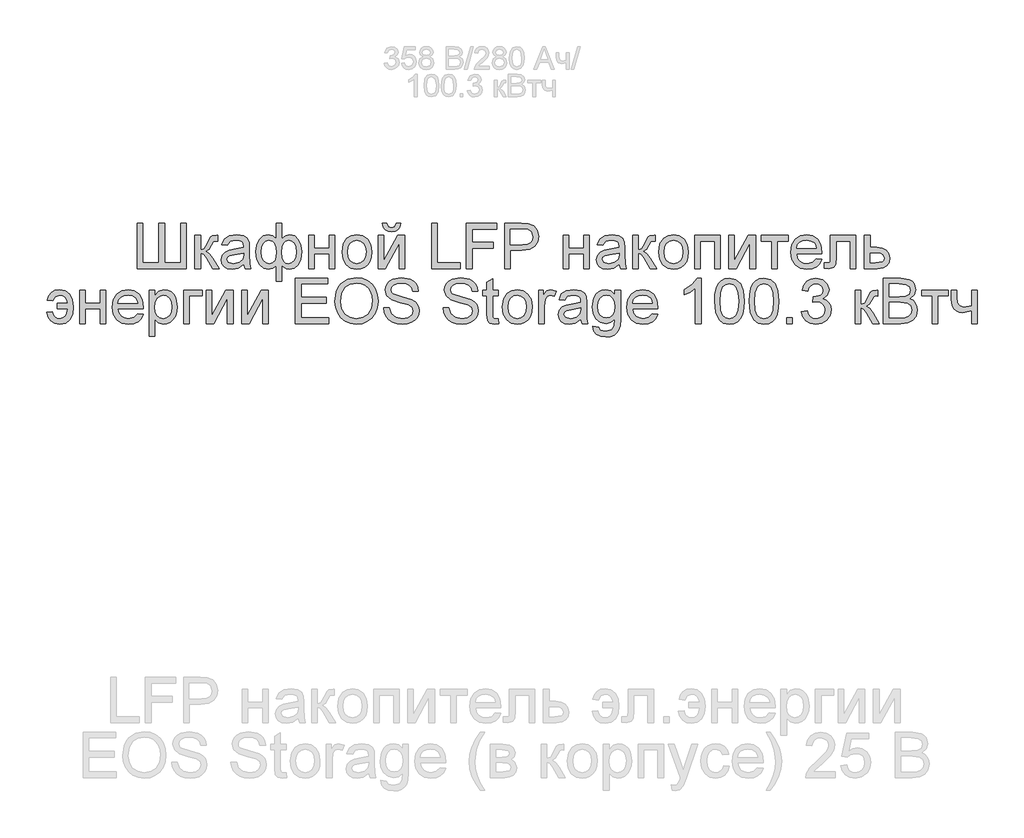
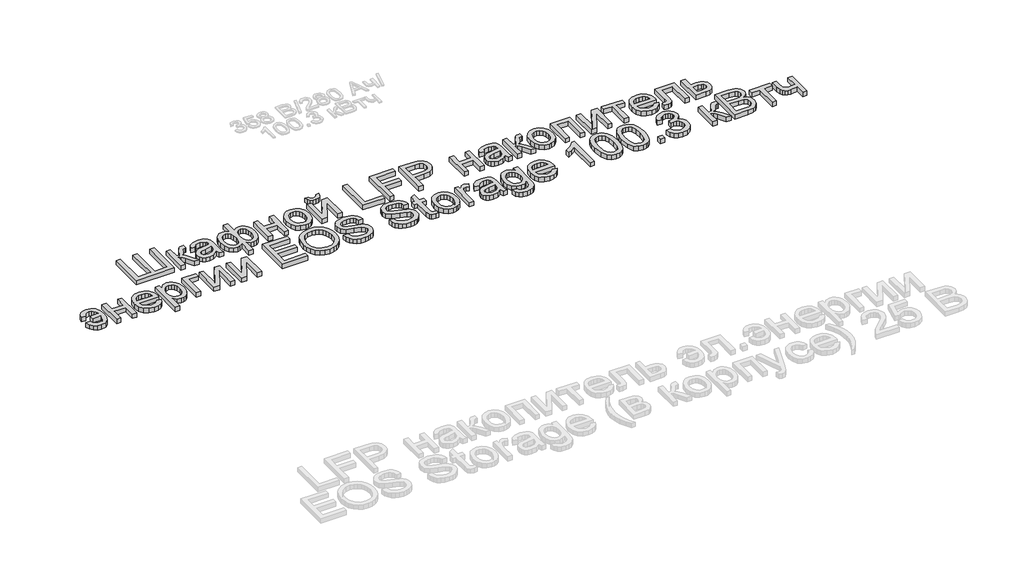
# One storey, part 21 of 26: 1 proxy.
"""IFC4 building model written with IfcOpenShell, lengths in millimetres."""

from ifc_helpers import new_model, si_unit, origin, origin_with_axes, place, context, project, spatial, polyline, outline, extrude, element, save

model = new_model("IFC4")

# Units and contexts
model_context = context("Model", 3, world=origin())
ifc_project = project(units=[si_unit("LENGTHUNIT", "METRE", prefix="MILLI")], contexts=[model_context])

# Site, building, storey
site = spatial("IfcSite", under=ifc_project)
building = spatial("IfcBuilding", under=site)
storey = spatial("IfcBuildingStorey", under=building, Name="Этаж 01", Elevation=0.0)

# Proxy
placement = place(None, origin())
element("IfcBuildingElementProxy", 1, Name="150 мм Arial", ObjectType="150 мм Arial", at=placement, inside=storey, context=model_context, shape_type="SweptSolid", body=[
    extrude(outline(polyline([(14334.9652813, -12348.2873663), (14353.8008394, -12348.2873663), (14353.8008394, -12480.1362734), (14407.9530691, -12480.1362734), (14407.9530691, -12348.2873663), (14426.7886273, -12348.2873663), (14426.7886273, -12480.1362734), (14480.9408569, -12480.1362734), (14480.9408569, -12348.2873663), (14499.7764151, -12348.2873663), (14499.7764151, -12498.9718316), (14334.9652813, -12498.9718316), (14334.9652813, -12348.2873663)])), origin_with_axes(), (0.0, 0.0, 1.0), 20.0),
    extrude(outline(polyline([(14528.0297523, -12388.3129274), (14546.8653105, -12388.3129274), (14546.8653105, -12435.4018228), (14559.4836629, -12432.0173084), (14569.821147, -12412.2988335), (14578.4111916, -12395.2842912), (14585.9895607, -12389.7476672), (14599.7667414, -12388.3129274), (14603.3719849, -12388.3129274), (14603.3719849, -12407.2588502), (14598.2952134, -12407.1484856), (14589.0981635, -12409.1350483), (14582.6234404, -12421.5326716), (14575.0266772, -12434.9419703), (14564.3764935, -12441.5086639), (14576.2590819, -12448.8387127), (14587.9209411, -12464.2805594), (14608.0808745, -12498.9718316), (14586.6701424, -12498.9718316), (14566.9148792, -12465.0163234), (14556.9820654, -12450.6505315), (14546.8653105, -12447.1740466), (14546.8653105, -12498.9718316), (14528.0297523, -12498.9718316), (14528.0297523, -12388.3129274)])), origin_with_axes(), (0.0, 0.0, 1.0), 20.0),
    extrude(outline(polyline([(14690.4864414, -12484.845163), (14672.2211003, -12497.6106682), (14652.0427729, -12501.3262763), (14636.302022, -12499.0913932), (14624.6907466, -12492.3867439), (14617.5308432, -12482.2056096), (14615.1442088, -12469.541272), (14618.7494523, -12454.6420511), (14628.2224137, -12443.8263205), (14641.4109832, -12437.645903), (14657.7081556, -12434.8132116), (14690.3760768, -12428.3384885), (14690.4864414, -12424.1446337), (14689.1896574, -12415.7385302), (14685.2993053, -12410.2386943), (14676.5988961, -12406.1552042), (14664.4771843, -12404.7940408), (14645.420897, -12408.4176785), (14636.3342117, -12421.2751542), (14617.4986536, -12418.9207094), (14625.6472398, -12400.5266097), (14642.0547767, -12389.7476672), (14666.9052055, -12385.9584826), (14689.7322833, -12389.3062088), (14702.6265472, -12397.7123124), (14708.4022946, -12410.4962117), (14709.3219996, -12426.9773251), (14709.3219996, -12450.4114082), (14710.2784927, -12483.1345117), (14714.0308891, -12498.9718316), (14695.1953309, -12498.9718316), (14690.4864414, -12484.845163)]), holes=[polyline([(14690.4864414, -12447.1740466), (14660.0993886, -12452.949794), (14643.8941867, -12456.0032145), (14636.5549409, -12460.9696215), (14633.9797669, -12468.2168968), (14639.5899674, -12478.407228), (14656.0526867, -12482.4907182), (14675.108974, -12477.9841637), (14687.3962326, -12467.0764626), (14690.3760768, -12452.5083356), (14690.4864414, -12447.1740466)])]), origin_with_axes(), (0.0, 0.0, 1.0), 20.0),
    extrude(outline(polyline([(14798.7909008, -12348.2873663), (14817.6264589, -12348.2873663), (14817.6264589, -12398.9447171), (14829.6010179, -12389.1774501), (14843.635716, -12385.9584826), (14860.1214279, -12390.0511698), (14872.7903641, -12402.3292314), (14880.8607754, -12420.8153017), (14883.5509125, -12443.5320149), (14880.6538418, -12466.9431054), (14871.9626296, -12485.3785918), (14858.9671981, -12497.3393552), (14843.1574694, -12501.3262763), (14831.642763, -12499.4868664), (14817.6264589, -12489.4436879), (14817.6264589, -12541.3518374), (14798.7909008, -12541.3518374), (14798.7909008, -12489.4436879), (14786.7611595, -12498.3464322), (14772.5241263, -12501.3262763), (14756.7419887, -12497.5186977), (14743.0935667, -12486.0959617), (14733.6573935, -12467.5823003), (14730.5120025, -12442.5019453), (14733.3584894, -12420.4198285), (14741.8979502, -12402.2188668), (14755.2474681, -12390.0235787), (14772.5241263, -12385.9584826), (14787.1106474, -12389.1774501), (14798.7909008, -12398.9447171), (14798.7909008, -12348.2873663)]), holes=[polyline([(14817.5160943, -12443.9734733), (14819.0841913, -12463.0435562), (14823.7884824, -12474.6364376), (14830.8564152, -12480.527148), (14839.5154376, -12482.4907182), (14849.1953326, -12480.0764926), (14857.3393203, -12472.8338158), (14862.8713458, -12460.5051704), (14864.7153543, -12442.8330391), (14863.0139001, -12426.0760142), (14857.9095374, -12414.2118199), (14850.1380303, -12407.1484856), (14840.4351426, -12404.7940408), (14830.4425479, -12407.2450546), (14823.2734476, -12414.598096), (14818.9554326, -12426.8439679), (14817.5160943, -12443.9734733)]), polyline([(14749.3475606, -12442.0972751), (14751.2329559, -12460.5741483), (14756.8891415, -12473.0361509), (14765.3412304, -12480.1270764), (14775.6143351, -12482.4907182), (14785.836856, -12480.1408719), (14793.107124, -12473.0913332), (14797.45273, -12461.342102), (14798.9012654, -12444.8931783), (14797.3791536, -12427.3498056), (14792.8128184, -12414.8188252), (14785.1746684, -12407.3002369), (14774.4371127, -12404.7940408), (14764.357146, -12407.2404561), (14756.3373185, -12414.5797019), (14751.0950001, -12426.3519257), (14749.3475606, -12442.0972751)])]), origin_with_axes(), (0.0, 0.0, 1.0), 20.0),
    extrude(outline(polyline([(14907.0953602, -12388.3129274), (14925.9309183, -12388.3129274), (14925.9309183, -12430.6929333), (14975.3742585, -12430.6929333), (14975.3742585, -12388.3129274), (14994.2098166, -12388.3129274), (14994.2098166, -12498.9718316), (14975.3742585, -12498.9718316), (14975.3742585, -12449.5284914), (14925.9309183, -12449.5284914), (14925.9309183, -12498.9718316), (14907.0953602, -12498.9718316), (14907.0953602, -12388.3129274)])), origin_with_axes(), (0.0, 0.0, 1.0), 20.0),
    extrude(outline(polyline([(15017.7542643, -12443.6423795), (15021.8285574, -12416.9617378), (15034.0514367, -12398.2089531), (15049.1529926, -12389.0211003), (15067.2343927, -12385.9584826), (15087.0218455, -12389.6878864), (15102.8269757, -12400.8760976), (15113.1874524, -12418.6401994), (15116.6409446, -12442.0972751), (15115.1142343, -12461.1259713), (15110.5341035, -12475.6113249), (15103.0339093, -12486.4592452), (15092.747009, -12494.5756417), (15080.5287283, -12499.6386177), (15067.2343927, -12501.3262763), (15047.2078165, -12497.6106682), (15031.4210804, -12486.4638437), (15021.1709683, -12468.3272614), (15017.7542643, -12443.6423795)]), holes=[polyline([(15036.5898225, -12443.6055913), (15038.7695233, -12460.6523232), (15045.3086257, -12472.7970276), (15055.1494691, -12480.0672955), (15067.2343927, -12482.4907182), (15079.2641339, -12480.0535), (15089.0865832, -12472.7418453), (15095.6256856, -12460.4361926), (15097.8053865, -12443.0169801), (15095.6118901, -12426.4668888), (15089.0314009, -12414.4877314), (15079.195156, -12407.2174634), (15067.2343927, -12404.7940408), (15055.1494691, -12407.2082664), (15045.3086257, -12414.4509432), (15038.7695233, -12426.5680564), (15036.5898225, -12443.6055913)])]), origin_with_axes(), (0.0, 0.0, 1.0), 20.0),
    extrude(outline(polyline([(15137.8309475, -12388.3129274), (15156.6665057, -12388.3129274), (15156.6665057, -12472.7050571), (15202.9460607, -12388.3129274), (15227.2998488, -12388.3129274), (15227.2998488, -12498.9718316), (15208.4642906, -12498.9718316), (15208.4642906, -12415.0947367), (15162.4790412, -12498.9718316), (15137.8309475, -12498.9718316), (15137.8309475, -12388.3129274)])), origin_with_axes(), (0.0, 0.0, 1.0), 20.0),
    extrude(outline(polyline([(15199.0465115, -12348.2873663), (15213.1731801, -12348.2873663), (15210.1335552, -12360.3492973), (15204.0313126, -12369.238246), (15195.1423639, -12374.7150892), (15183.7426205, -12376.5407036), (15171.3725884, -12374.7288847), (15161.7800654, -12369.2934283), (15155.2225689, -12360.4182751), (15151.9576162, -12348.2873663), (15166.0842848, -12348.2873663), (15171.3817855, -12358.9007619), (15182.0503634, -12362.414035), (15193.7490108, -12359.0111265), (15199.0465115, -12348.2873663)])), origin_with_axes(), (0.0, 0.0, 1.0), 20.0),
    extrude(outline(polyline([(15316.76875, -12498.9718316), (15316.76875, -12348.2873663), (15335.6043081, -12348.2873663), (15335.6043081, -12480.1362734), (15410.9465408, -12480.1362734), (15410.9465408, -12498.9718316), (15316.76875, -12498.9718316)])), origin_with_axes(), (0.0, 0.0, 1.0), 20.0),
    extrude(outline(polyline([(15432.1365437, -12498.9718316), (15432.1365437, -12348.2873663), (15533.3776687, -12348.2873663), (15533.3776687, -12367.1229245), (15450.9721018, -12367.1229245), (15450.9721018, -12411.8573751), (15521.6054449, -12411.8573751), (15521.6054449, -12430.6929333), (15450.9721018, -12430.6929333), (15450.9721018, -12498.9718316), (15432.1365437, -12498.9718316)])), origin_with_axes(), (0.0, 0.0, 1.0), 20.0),
    extrude(outline(polyline([(15559.2765612, -12498.9718316), (15559.2765612, -12348.2873663), (15615.1210481, -12348.2873663), (15637.6354262, -12349.7221061), (15655.9375554, -12356.7670463), (15667.8017498, -12371.3351733), (15672.2899101, -12391.8813828), (15669.2594822, -12409.6408861), (15660.1681984, -12424.4389393), (15643.1674517, -12434.4269355), (15616.4086351, -12437.7562676), (15578.1121194, -12437.7562676), (15578.1121194, -12498.9718316), (15559.2765612, -12498.9718316)]), holes=[polyline([(15578.1121194, -12418.9207094), (15617.512281, -12418.9207094), (15634.2141236, -12417.191664), (15645.2505835, -12412.0045279), (15651.4034099, -12403.6811978), (15653.454352, -12392.5435704), (15648.6167037, -12376.9453738), (15635.9063808, -12368.4105115), (15617.0708227, -12367.1229245), (15578.1121194, -12367.1229245), (15578.1121194, -12418.9207094)])]), origin_with_axes(), (0.0, 0.0, 1.0), 20.0),
    extrude(outline(polyline([(15754.695477, -12388.3129274), (15773.5310352, -12388.3129274), (15773.5310352, -12430.6929333), (15822.9743754, -12430.6929333), (15822.9743754, -12388.3129274), (15841.8099335, -12388.3129274), (15841.8099335, -12498.9718316), (15822.9743754, -12498.9718316), (15822.9743754, -12449.5284914), (15773.5310352, -12449.5284914), (15773.5310352, -12498.9718316), (15754.695477, -12498.9718316), (15754.695477, -12388.3129274)])), origin_with_axes(), (0.0, 0.0, 1.0), 20.0),
    extrude(outline(polyline([(15940.6966138, -12484.845163), (15922.4312727, -12497.6106682), (15902.2529453, -12501.3262763), (15886.5121944, -12499.0913932), (15874.900919, -12492.3867439), (15867.7410156, -12482.2056096), (15865.3543812, -12469.541272), (15868.9596248, -12454.6420511), (15878.4325861, -12443.8263205), (15891.6211557, -12437.645903), (15907.918328, -12434.8132116), (15940.5862492, -12428.3384885), (15940.6966138, -12424.1446337), (15939.3998298, -12415.7385302), (15935.5094777, -12410.2386943), (15926.8090685, -12406.1552042), (15914.6873568, -12404.7940408), (15895.6310694, -12408.4176785), (15886.5443841, -12421.2751542), (15867.708826, -12418.9207094), (15875.8574122, -12400.5266097), (15892.2649491, -12389.7476672), (15917.1153779, -12385.9584826), (15939.9424557, -12389.3062088), (15952.8367197, -12397.7123124), (15958.612467, -12410.4962117), (15959.532172, -12426.9773251), (15959.532172, -12450.4114082), (15960.4886652, -12483.1345117), (15964.2410615, -12498.9718316), (15945.4055033, -12498.9718316), (15940.6966138, -12484.845163)]), holes=[polyline([(15940.6966138, -12447.1740466), (15910.309561, -12452.949794), (15894.1043591, -12456.0032145), (15886.7651133, -12460.9696215), (15884.1899394, -12468.2168968), (15889.8001398, -12478.407228), (15906.2628591, -12482.4907182), (15925.3191464, -12477.9841637), (15937.6064051, -12467.0764626), (15940.5862492, -12452.5083356), (15940.6966138, -12447.1740466)])]), origin_with_axes(), (0.0, 0.0, 1.0), 20.0),
    extrude(outline(polyline([(15985.4310644, -12388.3129274), (16004.2666226, -12388.3129274), (16004.2666226, -12435.4018228), (16016.884975, -12432.0173084), (16027.2224591, -12412.2988335), (16035.8125037, -12395.2842912), (16043.3908728, -12389.7476672), (16057.1680535, -12388.3129274), (16060.773297, -12388.3129274), (16060.773297, -12407.2588502), (16055.6965255, -12407.1484856), (16046.4994756, -12409.1350483), (16040.0247525, -12421.5326716), (16032.4279893, -12434.9419703), (16021.7778055, -12441.5086639), (16033.660394, -12448.8387127), (16045.3222532, -12464.2805594), (16065.4821866, -12498.9718316), (16044.0714545, -12498.9718316), (16024.3161913, -12465.0163234), (16014.3833774, -12450.6505315), (16004.2666226, -12447.1740466), (16004.2666226, -12498.9718316), (15985.4310644, -12498.9718316), (15985.4310644, -12388.3129274)])), origin_with_axes(), (0.0, 0.0, 1.0), 20.0),
    extrude(outline(polyline([(16072.5455209, -12443.6423795), (16076.619814, -12416.9617378), (16088.8426933, -12398.2089531), (16103.9442492, -12389.0211003), (16122.0256492, -12385.9584826), (16141.813102, -12389.6878864), (16157.6182323, -12400.8760976), (16167.978709, -12418.6401994), (16171.4322012, -12442.0972751), (16169.9054909, -12461.1259713), (16165.3253601, -12475.6113249), (16157.8251659, -12486.4592452), (16147.5382656, -12494.5756417), (16135.3199848, -12499.6386177), (16122.0256492, -12501.3262763), (16101.9990731, -12497.6106682), (16086.212337, -12486.4638437), (16075.9622249, -12468.3272614), (16072.5455209, -12443.6423795)]), holes=[polyline([(16091.381079, -12443.6055913), (16093.5607799, -12460.6523232), (16100.0998823, -12472.7970276), (16109.9407257, -12480.0672955), (16122.0256492, -12482.4907182), (16134.0553905, -12480.0535), (16143.8778397, -12472.7418453), (16150.4169422, -12460.4361926), (16152.596643, -12443.0169801), (16150.4031466, -12426.4668888), (16143.8226574, -12414.4877314), (16133.9864126, -12407.2174634), (16122.0256492, -12404.7940408), (16109.9407257, -12407.2082664), (16100.0998823, -12414.4509432), (16093.5607799, -12426.5680564), (16091.381079, -12443.6055913)])]), origin_with_axes(), (0.0, 0.0, 1.0), 20.0),
    extrude(outline(polyline([(16192.6222041, -12388.3129274), (16277.3822158, -12388.3129274), (16277.3822158, -12498.9718316), (16258.5466576, -12498.9718316), (16258.5466576, -12407.1484856), (16211.4577623, -12407.1484856), (16211.4577623, -12498.9718316), (16192.6222041, -12498.9718316), (16192.6222041, -12388.3129274)])), origin_with_axes(), (0.0, 0.0, 1.0), 20.0),
    extrude(outline(polyline([(16305.635553, -12388.3129274), (16324.4711112, -12388.3129274), (16324.4711112, -12472.7050571), (16370.7506662, -12388.3129274), (16395.1044543, -12388.3129274), (16395.1044543, -12498.9718316), (16376.2688961, -12498.9718316), (16376.2688961, -12415.0947367), (16330.2836467, -12498.9718316), (16305.635553, -12498.9718316), (16305.635553, -12388.3129274)])), origin_with_axes(), (0.0, 0.0, 1.0), 20.0),
    extrude(outline(polyline([(16413.9400124, -12388.3129274), (16503.4089136, -12388.3129274), (16503.4089136, -12407.1484856), (16468.0922421, -12407.1484856), (16468.0922421, -12498.9718316), (16449.2566839, -12498.9718316), (16449.2566839, -12407.1484856), (16413.9400124, -12407.1484856), (16413.9400124, -12388.3129274)])), origin_with_axes(), (0.0, 0.0, 1.0), 20.0),
    extrude(outline(polyline([(16597.3659752, -12466.0096048), (16615.8336514, -12468.3640496), (16609.1795858, -12482.279186), (16598.5615917, -12492.6810494), (16584.2187924, -12499.1649696), (16566.3903112, -12501.3262763), (16544.2898003, -12497.5968726), (16527.2844551, -12486.4086614), (16516.4411333, -12468.4882097), (16512.8266927, -12444.5620845), (16516.4779215, -12419.8312174), (16527.4316079, -12401.33595), (16544.2070269, -12389.8028495), (16565.3234534, -12385.9584826), (16585.7822909, -12389.7936524), (16602.130047, -12401.2991618), (16612.8492087, -12419.757641), (16616.4222626, -12444.4517199), (16616.311898, -12449.5284914), (16531.6622509, -12449.5284914), (16534.922605, -12463.6275689), (16542.4963756, -12473.9926441), (16553.4270694, -12480.3661997), (16566.7581932, -12482.4907182), (16585.2258694, -12478.5543808), (16597.3659752, -12466.0096048)]), holes=[polyline([(16531.6622509, -12430.6929333), (16597.5867044, -12430.6929333), (16595.0391216, -12420.7417253), (16590.0451235, -12413.6232087), (16579.0638459, -12407.0013328), (16565.249877, -12404.7940408), (16552.5533497, -12406.5552759), (16542.0549172, -12411.838981), (16534.7570581, -12420.0749392), (16531.6622509, -12430.6929333)])]), origin_with_axes(), (0.0, 0.0, 1.0), 20.0),
    extrude(outline(polyline([(16644.6755998, -12388.3129274), (16729.4356115, -12388.3129274), (16729.4356115, -12498.861467), (16710.6000533, -12498.861467), (16710.6000533, -12407.1484856), (16663.5111579, -12407.1484856), (16663.5111579, -12459.9395519), (16662.241965, -12484.29334), (16655.2706012, -12494.5756417), (16638.7894879, -12498.9718316), (16623.4855969, -12498.0153384), (16623.4855969, -12480.1362734), (16631.9100945, -12480.1362734), (16640.4265627, -12478.9774451), (16643.8294712, -12475.2986252), (16644.6755998, -12458.8726941), (16644.6755998, -12388.3129274)])), origin_with_axes(), (0.0, 0.0, 1.0), 20.0),
    extrude(outline(polyline([(16757.6889487, -12388.3129274), (16776.5245069, -12388.3129274), (16776.5245069, -12428.3384885), (16798.2295446, -12428.3384885), (16817.0467086, -12430.6975318), (16830.9710421, -12437.7746617), (16839.5794808, -12448.999661), (16842.4489604, -12463.8023128), (16840.0071436, -12477.2805894), (16832.6816934, -12488.6527416), (16819.9851661, -12496.3920591), (16801.4301179, -12498.9718316), (16757.6889487, -12498.9718316), (16757.6889487, -12388.3129274)]), holes=[polyline([(16776.5245069, -12480.1362734), (16794.1092662, -12480.1362734), (16816.8259794, -12476.181542), (16821.9165465, -12471.118566), (16823.6134022, -12463.839101), (16818.591813, -12452.2508182), (16810.5214017, -12448.4432395), (16796.3533464, -12447.1740466), (16776.5245069, -12447.1740466), (16776.5245069, -12480.1362734)])]), origin_with_axes(), (0.0, 0.0, 1.0), 20.0),
    extrude(outline(polyline([(14068.9130224, -12613.65516), (14104.2296939, -12613.65516), (14101.3280247, -12603.2211069), (14095.7132257, -12594.9483606), (14087.753179, -12589.5542908), (14077.8157666, -12587.7562676), (14062.5486638, -12592.4651571), (14054.7863537, -12606.5918257), (14035.9507956, -12604.237381), (14040.3423869, -12590.0969168), (14048.8818477, -12578.798341), (14061.1369167, -12571.3901173), (14076.6753324, -12568.9207094), (14095.9017652, -12572.7650763), (14110.6124465, -12584.2981768), (14119.9520507, -12602.5635179), (14123.065252, -12626.6046063), (14120.4946766, -12650.53533), (14111.6057279, -12669.3524941), (14097.0789876, -12681.2166884), (14077.5950374, -12684.2885031), (14060.8931949, -12681.5339867), (14047.7230194, -12673.2704373), (14038.4891813, -12660.5095306), (14033.5963508, -12644.262942), (14052.431909, -12641.9084973), (14055.4071546, -12652.2091931), (14060.543707, -12659.566833), (14067.841566, -12663.981417), (14077.3007318, -12665.4529449), (14087.9417186, -12663.3928058), (14095.952349, -12657.2123883), (14101.3694114, -12646.9116924), (14104.2296939, -12632.4907182), (14068.9130224, -12632.4907182), (14068.9130224, -12613.65516)])), origin_with_axes(), (0.0, 0.0, 1.0), 20.0),
    extrude(outline(polyline([(14144.255255, -12571.2751542), (14163.0908131, -12571.2751542), (14163.0908131, -12613.65516), (14212.5341533, -12613.65516), (14212.5341533, -12571.2751542), (14231.3697114, -12571.2751542), (14231.3697114, -12681.9340583), (14212.5341533, -12681.9340583), (14212.5341533, -12632.4907182), (14163.0908131, -12632.4907182), (14163.0908131, -12681.9340583), (14144.255255, -12681.9340583), (14144.255255, -12571.2751542)])), origin_with_axes(), (0.0, 0.0, 1.0), 20.0),
    extrude(outline(polyline([(14337.0989968, -12648.9718316), (14355.566673, -12651.3262763), (14348.9126074, -12665.2414128), (14338.2946133, -12675.6432762), (14323.951814, -12682.1271964), (14306.1233328, -12684.2885031), (14284.022822, -12680.5590994), (14267.0174768, -12669.3708882), (14256.1741549, -12651.4504365), (14252.5597143, -12627.5243112), (14256.2109431, -12602.7934441), (14267.1646296, -12584.2981768), (14283.9400485, -12572.7650763), (14305.0564751, -12568.9207094), (14325.5153125, -12572.7558792), (14341.8630687, -12584.2613886), (14352.5822303, -12602.7198677), (14356.1552842, -12627.4139466), (14356.0449196, -12632.4907182), (14271.3952725, -12632.4907182), (14274.6556267, -12646.5897956), (14282.2293973, -12656.9548709), (14293.160091, -12663.3284264), (14306.4912148, -12665.4529449), (14324.958891, -12661.5166076), (14337.0989968, -12648.9718316)]), holes=[polyline([(14271.3952725, -12613.65516), (14337.319726, -12613.65516), (14334.7721432, -12603.7039521), (14329.7781451, -12596.5854355), (14318.7968676, -12589.9635595), (14304.9828987, -12587.7562676), (14292.2863713, -12589.5175026), (14281.7879389, -12594.8012078), (14274.4900798, -12603.0371659), (14271.3952725, -12613.65516)])]), origin_with_axes(), (0.0, 0.0, 1.0), 20.0),
    extrude(outline(polyline([(14374.9908423, -12724.3140642), (14374.9908423, -12571.2751542), (14393.8264005, -12571.2751542), (14393.8264005, -12589.7428303), (14406.8494231, -12574.1262396), (14424.4341825, -12568.9207094), (14437.1720966, -12570.7417253), (14448.309724, -12576.2047729), (14457.3780152, -12584.9787585), (14463.9079206, -12596.7325883), (14469.1686331, -12625.7584777), (14467.6833095, -12641.8671105), (14463.2273389, -12656.2742892), (14455.9432754, -12668.2488481), (14445.9736733, -12677.0596219), (14434.3623978, -12682.4812828), (14422.1533141, -12684.2885031), (14405.7641712, -12679.4508549), (14393.8264005, -12667.2187785), (14393.8264005, -12724.3140642), (14374.9908423, -12724.3140642)]), holes=[polyline([(14393.8264005, -12627.487523), (14395.863547, -12644.3733066), (14401.9749867, -12656.1823187), (14410.9926941, -12663.1352884), (14421.7486439, -12665.4529449), (14432.6793377, -12663.0525149), (14441.9269714, -12655.8512249), (14448.2315491, -12643.6099515), (14450.3330749, -12626.0895715), (14448.2821328, -12609.2957584), (14442.1293065, -12597.3211994), (14433.1253946, -12590.1475005), (14422.5211961, -12587.7562676), (14411.8756109, -12590.2992519), (14402.5268097, -12597.9282047), (14396.0015028, -12610.4040029), (14393.8264005, -12627.487523)])]), origin_with_axes(), (0.0, 0.0, 1.0), 20.0),
    extrude(outline(polyline([(14490.358636, -12571.2751542), (14551.5742, -12571.2751542), (14551.5742, -12590.1107123), (14509.1941942, -12590.1107123), (14509.1941942, -12681.9340583), (14490.358636, -12681.9340583), (14490.358636, -12571.2751542)])), origin_with_axes(), (0.0, 0.0, 1.0), 20.0),
    extrude(outline(polyline([(14565.7008686, -12571.2751542), (14584.5364268, -12571.2751542), (14584.5364268, -12655.6672839), (14630.8159818, -12571.2751542), (14655.1697699, -12571.2751542), (14655.1697699, -12681.9340583), (14636.3342117, -12681.9340583), (14636.3342117, -12598.0569634), (14590.3489623, -12681.9340583), (14565.7008686, -12681.9340583), (14565.7008686, -12571.2751542)])), origin_with_axes(), (0.0, 0.0, 1.0), 20.0),
    extrude(outline(polyline([(14683.4231071, -12571.2751542), (14702.2586652, -12571.2751542), (14702.2586652, -12655.6672839), (14748.5382202, -12571.2751542), (14772.8920083, -12571.2751542), (14772.8920083, -12681.9340583), (14754.0564502, -12681.9340583), (14754.0564502, -12598.0569634), (14708.0712008, -12681.9340583), (14683.4231071, -12681.9340583), (14683.4231071, -12571.2751542)])), origin_with_axes(), (0.0, 0.0, 1.0), 20.0),
    extrude(outline(polyline([(14862.3609095, -12681.9340583), (14862.3609095, -12531.2495931), (14970.6653689, -12531.2495931), (14970.6653689, -12550.0851513), (14881.1964677, -12550.0851513), (14881.1964677, -12594.8196019), (14965.9564794, -12594.8196019), (14965.9564794, -12613.65516), (14881.1964677, -12613.65516), (14881.1964677, -12663.0985002), (14973.0198137, -12663.0985002), (14973.0198137, -12681.9340583), (14862.3609095, -12681.9340583)])), origin_with_axes(), (0.0, 0.0, 1.0), 20.0),
    extrude(outline(polyline([(14994.2098166, -12608.5783885), (14999.2314059, -12575.2574768), (15005.5083924, -12561.6389452), (15014.2961736, -12550.0483631), (15037.2979953, -12534.183452), (15066.1307467, -12528.8951483), (15085.8952069, -12531.3783518), (15103.617922, -12538.8279622), (15118.3332018, -12550.7197477), (15129.0753561, -12566.5294764), (15135.6420497, -12585.4937933), (15137.8309475, -12606.8493431), (15135.5270865, -12628.4900015), (15128.6155036, -12647.7210328), (15117.4778762, -12663.5583527), (15102.4958819, -12675.0178768), (15084.9249181, -12681.9708465), (15066.0203821, -12684.2885031), (15045.9524192, -12681.7271247), (15028.1285366, -12674.0429895), (15013.450045, -12661.9304748), (15002.8182553, -12646.0839579), (14996.3619263, -12627.8508065), (14994.2098166, -12608.5783885)]), holes=[polyline([(15013.0453748, -12608.7623295), (15016.8115667, -12632.3343683), (15028.1101425, -12650.2962067), (15045.0924951, -12661.6637604), (15065.9100175, -12665.4529449), (15087.0310425, -12661.6269722), (15104.0409863, -12650.1490539), (15115.2567886, -12631.6353925), (15118.9953894, -12606.7021903), (15117.3951027, -12590.0279389), (15112.5942427, -12575.6161617), (15104.7169694, -12563.8301423), (15093.8874432, -12555.0331641), (15080.8230339, -12549.5563209), (15066.2411113, -12547.7307065), (15045.9800104, -12551.2485781), (15028.753936, -12561.8021928), (15016.9725151, -12580.5779701), (15013.0453748, -12608.7623295)])]), origin_with_axes(), (0.0, 0.0, 1.0), 20.0),
    extrude(outline(polyline([(15156.6665057, -12630.1362734), (15175.5020638, -12630.1362734), (15181.5721168, -12648.9902257), (15196.3977612, -12660.9096023), (15218.9857157, -12665.4529449), (15238.6674024, -12662.0132483), (15251.3777253, -12652.558681), (15255.553186, -12639.9219345), (15252.426189, -12628.1681047), (15239.6238956, -12619.6148484), (15212.1982929, -12612.4227553), (15182.6757627, -12603.133735), (15166.6545019, -12589.117431), (15161.3753952, -12570.3922374), (15163.0078716, -12559.3603761), (15167.9053006, -12549.0734758), (15175.9389237, -12540.3546725), (15186.9799821, -12534.0271022), (15214.9022255, -12528.8951483), (15244.7006671, -12534.2662255), (15256.1234031, -12540.8972984), (15264.5662949, -12550.0483631), (15269.9097809, -12561.1492023), (15272.0342994, -12573.629599), (15253.1987412, -12573.629599), (15249.7406505, -12562.390804), (15242.5301634, -12554.279006), (15231.2637773, -12549.3677814), (15215.6379895, -12547.7307065), (15199.6443198, -12549.3493873), (15188.6722393, -12554.2054296), (15182.3262749, -12561.3515374), (15180.2109534, -12569.8404144), (15181.7100725, -12577.0784927), (15186.2074299, -12582.9002252), (15216.9623647, -12593.4216503), (15250.2924735, -12602.8762176), (15261.0300292, -12609.7096256), (15268.5210263, -12618.1433204), (15272.9218147, -12628.0853313), (15274.3887441, -12639.4436879), (15272.7010855, -12651.0549634), (15267.6381095, -12661.9764601), (15259.4067499, -12671.3758451), (15248.2139402, -12678.4207853), (15234.7540577, -12682.8215736), (15219.7214797, -12684.2885031), (15201.2675991, -12682.7066105), (15186.0786712, -12677.9609328), (15173.9799521, -12670.0330758), (15164.7966978, -12658.9046454), (15158.9013888, -12645.3481939), (15156.6665057, -12630.1362734)])), origin_with_axes(), (0.0, 0.0, 1.0), 20.0),
    extrude(outline(polyline([(15354.4398663, -12630.1362734), (15373.2754244, -12630.1362734), (15379.3454774, -12648.9902257), (15394.1711218, -12660.9096023), (15416.7590763, -12665.4529449), (15436.440763, -12662.0132483), (15449.151086, -12652.558681), (15453.3265466, -12639.9219345), (15450.1995496, -12628.1681047), (15437.3972562, -12619.6148484), (15409.9716535, -12612.4227553), (15380.4491234, -12603.133735), (15364.4278625, -12589.117431), (15359.1487558, -12570.3922374), (15360.7812322, -12559.3603761), (15365.6786612, -12549.0734758), (15373.7122843, -12540.3546725), (15384.7533427, -12534.0271022), (15412.6755861, -12528.8951483), (15442.4740277, -12534.2662255), (15453.8967637, -12540.8972984), (15462.3396555, -12550.0483631), (15467.6831415, -12561.1492023), (15469.80766, -12573.629599), (15450.9721018, -12573.629599), (15447.5140111, -12562.390804), (15440.303524, -12554.279006), (15429.0371379, -12549.3677814), (15413.4113501, -12547.7307065), (15397.4176804, -12549.3493873), (15386.4455999, -12554.2054296), (15380.0996355, -12561.3515374), (15377.984314, -12569.8404144), (15379.4834331, -12577.0784927), (15383.9807905, -12582.9002252), (15414.7357253, -12593.4216503), (15448.0658341, -12602.8762176), (15458.8033898, -12609.7096256), (15466.2943869, -12618.1433204), (15470.6951753, -12628.0853313), (15472.1621048, -12639.4436879), (15470.4744461, -12651.0549634), (15465.4114701, -12661.9764601), (15457.1801105, -12671.3758451), (15445.9873008, -12678.4207853), (15432.5274183, -12682.8215736), (15417.4948403, -12684.2885031), (15399.0409597, -12682.7066105), (15383.8520318, -12677.9609328), (15371.7533127, -12670.0330758), (15362.5700584, -12658.9046454), (15356.6747494, -12645.3481939), (15354.4398663, -12630.1362734)])), origin_with_axes(), (0.0, 0.0, 1.0), 20.0),
    extrude(outline(polyline([(15538.0865583, -12666.2254971), (15540.4410031, -12682.4858813), (15526.3511226, -12684.2885031), (15510.568985, -12681.1615061), (15502.6963104, -12672.9577377), (15500.415442, -12651.5837937), (15500.415442, -12590.1107123), (15486.2887734, -12590.1107123), (15486.2887734, -12571.2751542), (15500.415442, -12571.2751542), (15500.415442, -12544.3829803), (15519.2510001, -12533.3097323), (15519.2510001, -12571.2751542), (15538.0865583, -12571.2751542), (15538.0865583, -12590.1107123), (15519.2510001, -12590.1107123), (15519.2510001, -12651.0319707), (15520.2442815, -12660.7440554), (15523.463249, -12664.1837521), (15529.8827898, -12665.4529449), (15538.0865583, -12666.2254971)])), origin_with_axes(), (0.0, 0.0, 1.0), 20.0),
    extrude(outline(polyline([(15552.2132269, -12626.6046063), (15556.28752, -12599.9239646), (15568.5103993, -12581.1711799), (15583.6119552, -12571.983327), (15601.6933553, -12568.9207094), (15621.4808081, -12572.6501131), (15637.2859383, -12583.8383243), (15647.646415, -12601.6024262), (15651.0999072, -12625.0595019), (15649.5731969, -12644.0881981), (15644.9930661, -12658.5735516), (15637.4928719, -12669.421472), (15627.2059716, -12677.5378685), (15614.9876909, -12682.6008444), (15601.6933553, -12684.2885031), (15581.6667791, -12680.572895), (15565.880043, -12669.4260705), (15555.6299309, -12651.2894881), (15552.2132269, -12626.6046063)]), holes=[polyline([(15571.0487851, -12626.5678181), (15573.2284859, -12643.61455), (15579.7675883, -12655.7592544), (15589.6084317, -12663.0295223), (15601.6933553, -12665.4529449), (15613.7230965, -12663.0157267), (15623.5455458, -12655.7040721), (15630.0846482, -12643.3984193), (15632.2643491, -12625.9792069), (15630.0708527, -12609.4291156), (15623.4903635, -12597.4499581), (15613.6541186, -12590.1796902), (15601.6933553, -12587.7562676), (15589.6084317, -12590.1704932), (15579.7675883, -12597.4131699), (15573.2284859, -12609.5302832), (15571.0487851, -12626.5678181)])]), origin_with_axes(), (0.0, 0.0, 1.0), 20.0),
    extrude(outline(polyline([(15672.2899101, -12681.9340583), (15672.2899101, -12571.2751542), (15688.7710235, -12571.2751542), (15688.7710235, -12587.645903), (15700.469671, -12572.5627412), (15712.2418948, -12568.9207094), (15731.1510294, -12574.7332449), (15724.8602472, -12591.6190285), (15711.6164954, -12587.7562676), (15700.9663117, -12591.4718757), (15694.1788888, -12601.7725716), (15691.1254683, -12623.7719149), (15691.1254683, -12681.9340583), (15672.2899101, -12681.9340583)])), origin_with_axes(), (0.0, 0.0, 1.0), 20.0),
    extrude(outline(polyline([(15813.5565963, -12667.8073897), (15795.2912552, -12680.572895), (15775.1129278, -12684.2885031), (15759.3721769, -12682.05362), (15747.7609014, -12675.3489706), (15740.6009981, -12665.1678364), (15738.2143637, -12652.5034987), (15741.8196072, -12637.6042779), (15751.2925686, -12626.7885473), (15764.4811381, -12620.6081297), (15780.7783105, -12617.7754384), (15813.4462317, -12611.3007153), (15813.5565963, -12607.1068605), (15812.2598122, -12598.7007569), (15808.3694601, -12593.2009211), (15799.669051, -12589.117431), (15787.5473392, -12587.7562676), (15768.4910519, -12591.3799052), (15759.4043666, -12604.237381), (15740.5688084, -12601.8829362), (15748.7173946, -12583.4888364), (15765.1249316, -12572.709894), (15789.9753604, -12568.9207094), (15812.8024382, -12572.2684356), (15825.6967021, -12580.6745392), (15831.4724494, -12593.4584385), (15832.3921544, -12609.9395519), (15832.3921544, -12633.373635), (15833.3486476, -12666.0967384), (15837.101044, -12681.9340583), (15818.2654858, -12681.9340583), (15813.5565963, -12667.8073897)]), holes=[polyline([(15813.5565963, -12630.1362734), (15783.1695435, -12635.9120207), (15766.9643416, -12638.9654413), (15759.6250958, -12643.9318482), (15757.0499218, -12651.1791235), (15762.6601222, -12661.3694548), (15779.1228415, -12665.4529449), (15798.1791289, -12660.9463905), (15810.4663875, -12650.0386894), (15813.4462317, -12635.4705623), (15813.5565963, -12630.1362734)])]), origin_with_axes(), (0.0, 0.0, 1.0), 20.0),
    extrude(outline(polyline([(15853.5821574, -12691.3518374), (15872.4177155, -12693.7062822), (15878.5245566, -12703.639096), (15896.8082918, -12707.8329508), (15916.0853083, -12703.0872731), (15925.2823582, -12689.7699448), (15926.5699452, -12667.8073897), (15913.3077993, -12678.4023912), (15897.1393856, -12681.9340583), (15877.7198148, -12677.822977), (15863.2390597, -12665.4897331), (15854.2305494, -12647.4083331), (15851.2277126, -12626.0527833), (15856.6171838, -12596.8613469), (15863.2114686, -12585.0109482), (15872.2153804, -12576.2047729), (15883.3208181, -12570.7417253), (15896.2196806, -12568.9207094), (15913.0226907, -12573.0409878), (15926.5699452, -12585.4018228), (15926.5699452, -12571.2751542), (15945.4055033, -12571.2751542), (15945.4055033, -12666.8141083), (15944.1179164, -12688.8732325), (15940.2551554, -12703.3999728), (15933.6010898, -12713.0338825), (15923.9395889, -12720.414515), (15911.4821849, -12725.1050105), (15896.4404098, -12726.6685089), (15878.9154312, -12724.4658155), (15865.1152579, -12717.8577352), (15856.2630974, -12706.8258738), (15853.5821574, -12691.3518374)]), holes=[polyline([(15870.0632707, -12624.7651963), (15872.0728261, -12642.0418545), (15878.1014923, -12653.9198444), (15887.165185, -12660.8038362), (15898.2798198, -12663.0985002), (15909.3116811, -12660.8176318), (15918.421359, -12653.9750267), (15924.5327986, -12642.2487881), (15926.5699452, -12625.3170193), (15924.4730178, -12608.9876572), (15918.1822357, -12597.2292289), (15908.9392006, -12590.1245079), (15897.9855142, -12587.7562676), (15887.2295643, -12590.0877197), (15878.2118569, -12597.0820761), (15872.1004173, -12608.6657605), (15870.0632707, -12624.7651963)])]), origin_with_axes(), (0.0, 0.0, 1.0), 20.0),
    extrude(outline(polyline([(16051.1347888, -12648.9718316), (16069.6024649, -12651.3262763), (16062.9483993, -12665.2414128), (16052.3304052, -12675.6432762), (16037.987606, -12682.1271964), (16020.1591248, -12684.2885031), (15998.0586139, -12680.5590994), (15981.0532687, -12669.3708882), (15970.2099469, -12651.4504365), (15966.5955063, -12627.5243112), (15970.2467351, -12602.7934441), (15981.2004215, -12584.2981768), (15997.9758405, -12572.7650763), (16019.092267, -12568.9207094), (16039.5511044, -12572.7558792), (16055.8988606, -12584.2613886), (16066.6180222, -12602.7198677), (16070.1910761, -12627.4139466), (16070.0807115, -12632.4907182), (15985.4310644, -12632.4907182), (15988.6914186, -12646.5897956), (15996.2651892, -12656.9548709), (16007.195883, -12663.3284264), (16020.5270068, -12665.4529449), (16038.9946829, -12661.5166076), (16051.1347888, -12648.9718316)]), holes=[polyline([(15985.4310644, -12613.65516), (16051.355518, -12613.65516), (16048.8079351, -12603.7039521), (16043.8139371, -12596.5854355), (16032.8326595, -12589.9635595), (16019.0186906, -12587.7562676), (16006.3221632, -12589.5175026), (15995.8237308, -12594.8012078), (15988.5258717, -12603.0371659), (15985.4310644, -12613.65516)])]), origin_with_axes(), (0.0, 0.0, 1.0), 20.0),
    extrude(outline(polyline([(16213.812207, -12681.9340583), (16194.9766489, -12681.9340583), (16194.9766489, -12564.5061255), (16177.1343721, -12577.2164484), (16157.3055326, -12586.726198), (16157.3055326, -12568.9207094), (16184.9150763, -12551.2991618), (16201.6721012, -12531.2495931), (16213.812207, -12531.2495931), (16213.812207, -12681.9340583)])), origin_with_axes(), (0.0, 0.0, 1.0), 20.0),
    extrude(outline(polyline([(16258.5466576, -12607.8058363), (16259.9308136, -12583.686573), (16264.0832817, -12564.4509432), (16270.962675, -12549.8046412), (16280.5276069, -12539.4533616), (16292.8470552, -12533.3005352), (16307.9899978, -12531.2495931), (16329.9893411, -12536.1056354), (16345.1828675, -12550.1035454), (16354.0120354, -12572.3971943), (16357.4333379, -12607.8058363), (16356.0629775, -12631.7871439), (16351.9518962, -12650.9767884), (16345.1138896, -12665.6368859), (16335.5627533, -12676.0295523), (16323.2157139, -12682.2237654), (16307.9899978, -12684.2885031), (16288.4186757, -12680.7016536), (16273.556243, -12669.9411053), (16262.299054, -12644.4560801), (16258.5466576, -12607.8058363)]), holes=[polyline([(16277.3822158, -12607.7690481), (16279.5895078, -12637.3973443), (16286.2113837, -12654.5452438), (16296.0706212, -12662.7260197), (16307.9899978, -12665.4529449), (16319.9093744, -12662.7168226), (16329.7686119, -12654.5084556), (16336.3904878, -12637.351359), (16338.5977798, -12607.7690481), (16336.4640642, -12578.807538), (16330.0629175, -12561.5262813), (16320.2220741, -12552.9454338), (16307.7692686, -12550.0851513), (16295.9786507, -12552.6051429), (16286.5056893, -12560.1651179), (16279.6630842, -12578.5224295), (16277.3822158, -12607.7690481)])]), origin_with_axes(), (0.0, 0.0, 1.0), 20.0),
    extrude(outline(polyline([(16373.9144513, -12607.8058363), (16375.2986073, -12583.686573), (16379.4510754, -12564.4509432), (16386.3304687, -12549.8046412), (16395.8954005, -12539.4533616), (16408.2148489, -12533.3005352), (16423.3577915, -12531.2495931), (16445.3571348, -12536.1056354), (16460.5506612, -12550.1035454), (16469.3798291, -12572.3971943), (16472.8011316, -12607.8058363), (16471.4307712, -12631.7871439), (16467.3196899, -12650.9767884), (16460.4816833, -12665.6368859), (16450.930547, -12676.0295523), (16438.5835076, -12682.2237654), (16423.3577915, -12684.2885031), (16403.7864693, -12680.7016536), (16388.9240367, -12669.9411053), (16377.6668477, -12644.4560801), (16373.9144513, -12607.8058363)]), holes=[polyline([(16392.7500095, -12607.7690481), (16394.9573015, -12637.3973443), (16401.5791774, -12654.5452438), (16411.4384148, -12662.7260197), (16423.3577915, -12665.4529449), (16435.2771681, -12662.7168226), (16445.1364056, -12654.5084556), (16451.7582815, -12637.351359), (16453.9655735, -12607.7690481), (16451.8318579, -12578.807538), (16445.4307112, -12561.5262813), (16435.5898678, -12552.9454338), (16423.1370623, -12550.0851513), (16411.3464443, -12552.6051429), (16401.873483, -12560.1651179), (16395.0308779, -12578.5224295), (16392.7500095, -12607.7690481)])]), origin_with_axes(), (0.0, 0.0, 1.0), 20.0),
    extrude(outline(polyline([(16498.7000241, -12681.9340583), (16498.7000241, -12663.0985002), (16517.5355822, -12663.0985002), (16517.5355822, -12681.9340583), (16498.7000241, -12681.9340583)])), origin_with_axes(), (0.0, 0.0, 1.0), 20.0),
    extrude(outline(polyline([(16548.1433642, -12641.9084973), (16566.9789224, -12639.5540525), (16571.1957698, -12651.3906557), (16577.3715888, -12659.382892), (16585.809882, -12663.9354317), (16596.8141522, -12665.4529449), (16609.7268102, -12663.3652146), (16619.6964123, -12657.1020237), (16626.0699679, -12647.757821), (16628.1944864, -12636.4270555), (16626.088362, -12625.6711057), (16619.7699887, -12616.9477039), (16610.2050568, -12611.167358), (16598.3592566, -12609.2405761), (16585.152293, -12611.3007153), (16587.2492203, -12592.4651571), (16590.2658527, -12592.6858863), (16611.6397966, -12587.278021), (16618.7583132, -12580.4170218), (16621.1311521, -12570.6497548), (16619.4113038, -12562.5149642), (16614.2517588, -12555.9160809), (16606.3790841, -12551.5428837), (16596.5198466, -12550.0851513), (16586.642215, -12551.5566792), (16578.5672052, -12555.9712632), (16572.6718963, -12563.3289031), (16569.3333672, -12573.629599), (16550.497809, -12571.2751542), (16556.0436301, -12554.3617795), (16565.9120646, -12541.73423), (16579.4133338, -12533.8707523), (16595.857659, -12531.2495931), (16618.5743722, -12536.4183351), (16634.4668744, -12550.5450038), (16639.9667102, -12569.5461088), (16634.7427859, -12586.910139), (16619.2917421, -12599.3813386), (16631.0823601, -12604.1454105), (16639.8195574, -12612.2572084), (16645.2274228, -12623.2752742), (16647.0300445, -12636.7581493), (16643.424801, -12655.1154609), (16632.6090703, -12670.4561401), (16616.2843068, -12680.8304123), (16596.1519646, -12684.2885031), (16577.9418059, -12681.3362501), (16563.1161614, -12672.4794911), (16552.8062685, -12658.9322366), (16548.1433642, -12641.9084973)])), origin_with_axes(), (0.0, 0.0, 1.0), 20.0),
    extrude(outline(polyline([(16727.0811667, -12571.2751542), (16745.9167249, -12571.2751542), (16745.9167249, -12618.3640496), (16758.5350773, -12614.9795352), (16768.8725614, -12595.2610603), (16777.4626059, -12578.246518), (16785.040975, -12572.709894), (16798.8181558, -12571.2751542), (16802.4233993, -12571.2751542), (16802.4233993, -12590.2210769), (16797.3466278, -12590.1107123), (16788.1495779, -12592.0972751), (16781.6748548, -12604.4948983), (16774.0780916, -12617.9041971), (16763.4279078, -12624.4708907), (16775.3104963, -12631.8009394), (16786.9723555, -12647.2427862), (16807.1322889, -12681.9340583), (16785.7215567, -12681.9340583), (16765.9662936, -12647.9785502), (16756.0334797, -12633.6127583), (16745.9167249, -12630.1362734), (16745.9167249, -12681.9340583), (16727.0811667, -12681.9340583), (16727.0811667, -12571.2751542)])), origin_with_axes(), (0.0, 0.0, 1.0), 20.0),
    extrude(outline(polyline([(16821.2589575, -12681.9340583), (16821.2589575, -12531.2495931), (16878.7589133, -12531.2495931), (16906.92028, -12535.6825712), (16916.3840444, -12541.3065672), (16923.5485462, -12549.3125991), (16929.5634168, -12568.5896156), (16924.5050394, -12586.1927691), (16909.2195425, -12599.5284914), (16919.8927189, -12605.1019036), (16927.7791892, -12613.5815836), (16932.6490271, -12624.4065113), (16934.2723064, -12637.0156667), (16929.8393283, -12657.2675706), (16918.8580508, -12671.6885448), (16902.4689079, -12679.3404903), (16878.3174549, -12681.9340583), (16821.2589575, -12681.9340583)]), holes=[polyline([(16840.0945156, -12592.4651571), (16874.4914822, -12592.4651571), (16894.5778391, -12590.8464763), (16906.6627626, -12583.8751125), (16910.7278587, -12571.606248), (16906.9386741, -12559.3189893), (16896.0861553, -12552.0533199), (16871.87952, -12550.0851513), (16840.0945156, -12550.0851513), (16840.0945156, -12592.4651571)]), polyline([(16840.0945156, -12663.0985002), (16878.7221251, -12663.0985002), (16892.7016409, -12662.3627362), (16904.5290471, -12658.2608519), (16912.3649336, -12649.8915366), (16915.4367482, -12637.1996077), (16911.8315047, -12622.5579043), (16900.1512513, -12613.8207069), (16876.8827151, -12611.3007153), (16840.0945156, -12611.3007153), (16840.0945156, -12663.0985002)])]), origin_with_axes(), (0.0, 0.0, 1.0), 20.0),
    extrude(outline(polyline([(16948.398975, -12571.2751542), (17037.8678762, -12571.2751542), (17037.8678762, -12590.1107123), (17002.5512047, -12590.1107123), (17002.5512047, -12681.9340583), (16983.7156465, -12681.9340583), (16983.7156465, -12590.1107123), (16948.398975, -12590.1107123), (16948.398975, -12571.2751542)])), origin_with_axes(), (0.0, 0.0, 1.0), 20.0),
    extrude(outline(polyline([(17047.2856553, -12571.2751542), (17066.1212135, -12571.2751542), (17066.1212135, -12592.5019453), (17067.6479237, -12612.4043612), (17074.9871695, -12623.1833037), (17089.5552965, -12627.7818286), (17115.5645536, -12622.0796577), (17115.5645536, -12571.2751542), (17134.4001118, -12571.2751542), (17134.4001118, -12681.9340583), (17115.5645536, -12681.9340583), (17115.5645536, -12640.1426637), (17084.5153132, -12646.6173868), (17073.1247669, -12644.9297281), (17063.1597634, -12639.8667522), (17055.3928548, -12632.357361), (17050.5965933, -12623.3304565), (17047.2856553, -12601.8093598), (17047.2856553, -12571.2751542)])), origin_with_axes(), (0.0, 0.0, 1.0), 20.0),
])

save(model, "model.ifc")
